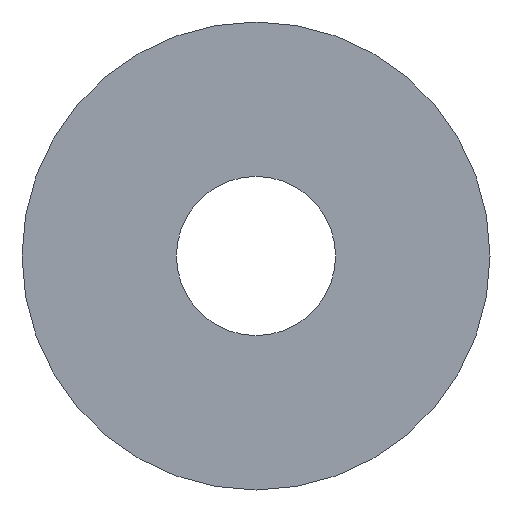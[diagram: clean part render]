
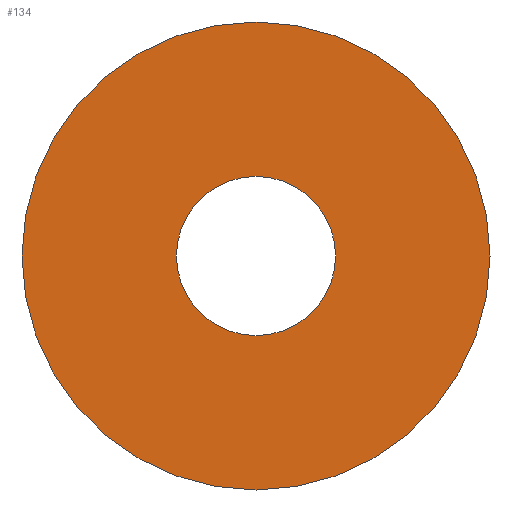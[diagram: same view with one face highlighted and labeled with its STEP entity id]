
A CAD part, front view. The second image highlights one B-rep face of the part: STEP entity #134.
In plain terms, the highlighted planar face has unit normal (0, -1, 0).
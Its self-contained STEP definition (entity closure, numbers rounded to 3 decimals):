
#1=CARTESIAN_POINT('',(0.,0.,0.));
#2=DIRECTION('',(0.,1.,0.));
#3=DIRECTION('',(1.,0.,0.));
#4=AXIS2_PLACEMENT_3D('',#1,#2,#3);
#6=CARTESIAN_POINT('',(0.,0.,0.));
#7=DIRECTION('',(0.,1.,0.));
#8=DIRECTION('',(-1.,0.,0.));
#9=AXIS2_PLACEMENT_3D('',#6,#7,#8);
#11=CARTESIAN_POINT('',(0.,0.,0.));
#12=DIRECTION('',(0.,-1.,0.));
#13=DIRECTION('',(1.,0.,0.));
#14=AXIS2_PLACEMENT_3D('',#11,#12,#13);
#16=CARTESIAN_POINT('',(0.,0.,0.));
#17=DIRECTION('',(0.,-1.,0.));
#18=DIRECTION('',(-1.,0.,0.));
#19=AXIS2_PLACEMENT_3D('',#16,#17,#18);
#93=CARTESIAN_POINT('',(12.5,0.,0.));
#94=CARTESIAN_POINT('',(-12.5,0.,0.));
#95=VERTEX_POINT('',#93);
#96=VERTEX_POINT('',#94);
#97=CARTESIAN_POINT('',(4.25,0.,0.));
#98=CARTESIAN_POINT('',(-4.25,0.,0.));
#99=VERTEX_POINT('',#97);
#100=VERTEX_POINT('',#98);
#117=CARTESIAN_POINT('',(0.,0.,0.));
#118=DIRECTION('',(0.,1.,0.));
#119=DIRECTION('',(1.,0.,0.));
#120=AXIS2_PLACEMENT_3D('',#117,#118,#119);
#121=PLANE('',#120);
#123=ORIENTED_EDGE('',*,*,#122,.T.);
#125=ORIENTED_EDGE('',*,*,#124,.T.);
#126=EDGE_LOOP('',(#123,#125));
#127=FACE_OUTER_BOUND('',#126,.F.);
#129=ORIENTED_EDGE('',*,*,#128,.T.);
#131=ORIENTED_EDGE('',*,*,#130,.T.);
#132=EDGE_LOOP('',(#129,#131));
#133=FACE_BOUND('',#132,.F.);
#134=ADVANCED_FACE('',(#127,#133),#121,.F.);
#5=CIRCLE('',#4,12.5);
#10=CIRCLE('',#9,12.5);
#15=CIRCLE('',#14,4.25);
#20=CIRCLE('',#19,4.25);
#122=EDGE_CURVE('',#95,#96,#5,.T.);
#124=EDGE_CURVE('',#96,#95,#10,.T.);
#128=EDGE_CURVE('',#99,#100,#15,.T.);
#130=EDGE_CURVE('',#100,#99,#20,.T.);
